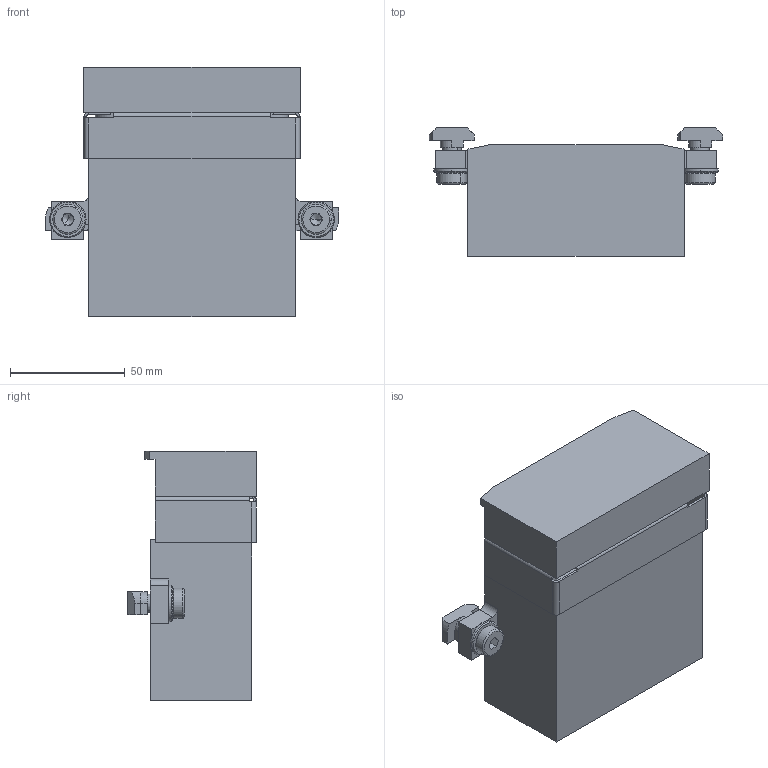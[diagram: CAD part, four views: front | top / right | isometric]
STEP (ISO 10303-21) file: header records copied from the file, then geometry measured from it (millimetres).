
FILE_DESCRIPTION (( 'STEP AP203' ), '1' );
FILE_NAME ('DDU-100-17-DW_Verschiebeanschlag~1.STEP', '2021-06-11T05:22:21', ( '' ), ( '' ), 'SwSTEP 2.0', 'SolidWorks 2019', '' );
FILE_SCHEMA (( 'CONFIG_CONTROL_DESIGN' ));
Length unit declared in the file: millimetre
Products named in the file (1): DDU-100-17-DW_Verschiebeanschlag~1
Bounding box: 127.5 x 55.9 x 108.6 mm (x, y, z)
Volume: 383949.3 mm3; surface area: 60121.3 mm2
Topology: 3 solids, 5 shells, 365 faces, 882 edges, 536 vertices
Faces by surface type: plane 195, cylinder 109, cone 57, torus 4
Entity records: 10560 total; most frequent: DIRECTION 1921, CARTESIAN_POINT 1794, ORIENTED_EDGE 1736, EDGE_CURVE 868, AXIS2_PLACEMENT_3D 695, VERTEX_POINT 536, LINE 531, VECTOR 531
